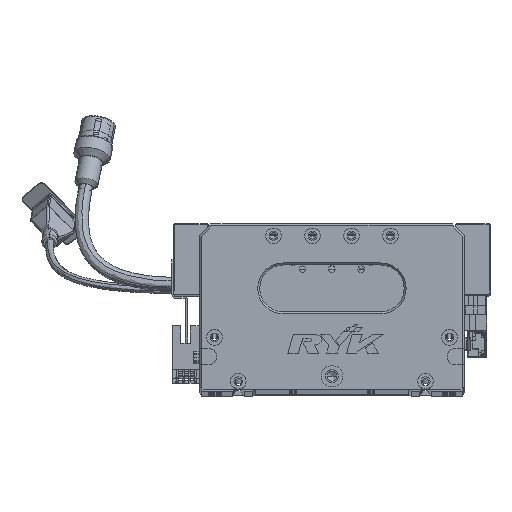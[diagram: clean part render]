
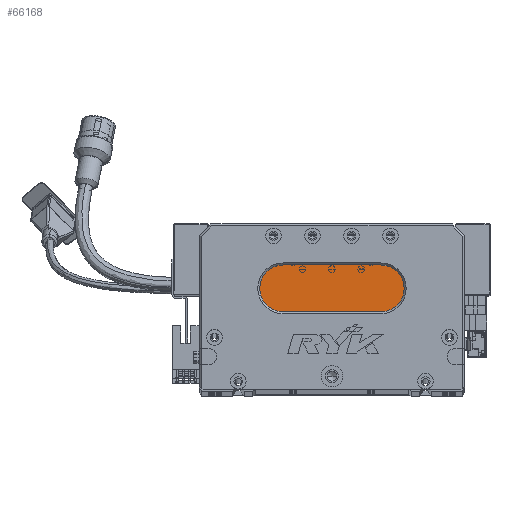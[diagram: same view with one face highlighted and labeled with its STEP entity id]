
A CAD part, top view. The second image highlights one B-rep face of the part: STEP entity #66168.
In plain terms, the highlighted planar face has unit normal (0, 0, 1) as drawn and (0, 0, -1) by its records, which use the part's own axes.
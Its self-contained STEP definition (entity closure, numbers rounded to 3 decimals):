
#391 = CARTESIAN_POINT ( 'NONE',  ( 93., 52., 13. ) ) ;
#715 = DIRECTION ( 'NONE',  ( -1., 0., 0. ) ) ;
#3499 = ORIENTED_EDGE ( 'NONE', *, *, #45184, .T. ) ;
#5304 = AXIS2_PLACEMENT_3D ( 'NONE', #391, #47567, #715 ) ;
#12016 = VERTEX_POINT ( 'NONE', #96600 ) ;
#15192 = CARTESIAN_POINT ( 'NONE',  ( 31., 52., 13. ) ) ;
#22307 = DIRECTION ( 'NONE',  ( -1., 0., 0. ) ) ;
#22929 = CIRCLE ( 'NONE', #57289, 12. ) ;
#23066 = DIRECTION ( 'NONE',  ( 1., 0., 0. ) ) ;
#24414 = VERTEX_POINT ( 'NONE', #72092 ) ;
#31712 = ORIENTED_EDGE ( 'NONE', *, *, #69929, .T. ) ;
#33215 = FACE_OUTER_BOUND ( 'NONE', #58527, .T. ) ;
#34445 = ORIENTED_EDGE ( 'NONE', *, *, #45962, .T. ) ;
#38374 = DIRECTION ( 'NONE',  ( 0., 0., -1. ) ) ;
#45013 = VERTEX_POINT ( 'NONE', #53197 ) ;
#45184 = EDGE_CURVE ( 'NONE', #75825, #12016, #22929, .T. ) ;
#45962 = EDGE_CURVE ( 'NONE', #12016, #45013, #82908, .T. ) ;
#46289 = DIRECTION ( 'NONE',  ( 0., 0., -1. ) ) ;
#46462 = AXIS2_PLACEMENT_3D ( 'NONE', #69519, #38374, #78079 ) ;
#47567 = DIRECTION ( 'NONE',  ( 0., 0., -1. ) ) ;
#53197 = CARTESIAN_POINT ( 'NONE',  ( 93., 64., 13. ) ) ;
#54849 = CIRCLE ( 'NONE', #46462, 12. ) ;
#55565 = DIRECTION ( 'NONE',  ( 0., 0., -1. ) ) ;
#56904 = DIRECTION ( 'NONE',  ( -1., 0., 0. ) ) ;
#57289 = AXIS2_PLACEMENT_3D ( 'NONE', #87422, #55565, #56904 ) ;
#58527 = EDGE_LOOP ( 'NONE', ( #69439, #72561, #31712, #3499, #34445 ) ) ;
#59582 = VECTOR ( 'NONE', #23066, 1000. ) ;
#60550 = CIRCLE ( 'NONE', #5304, 12. ) ;
#61739 = CARTESIAN_POINT ( 'NONE',  ( 93., 40., 13. ) ) ;
#66168 = ADVANCED_FACE ( 'NONE', ( #33215 ), #85692, .T. ) ;
#68894 = DIRECTION ( 'NONE',  ( -1., 0., 0. ) ) ;
#69439 = ORIENTED_EDGE ( 'NONE', *, *, #91989, .T. ) ;
#69519 = CARTESIAN_POINT ( 'NONE',  ( 43., 52., 13. ) ) ;
#69929 = EDGE_CURVE ( 'NONE', #24414, #75825, #54849, .T. ) ;
#72092 = CARTESIAN_POINT ( 'NONE',  ( 43., 40., 13. ) ) ;
#72444 = CARTESIAN_POINT ( 'NONE',  ( 93., 64., 13. ) ) ;
#72561 = ORIENTED_EDGE ( 'NONE', *, *, #83870, .T. ) ;
#74441 = VERTEX_POINT ( 'NONE', #61739 ) ;
#75825 = VERTEX_POINT ( 'NONE', #15192 ) ;
#78079 = DIRECTION ( 'NONE',  ( -1., 0., 0. ) ) ;
#82908 = LINE ( 'NONE', #72444, #59582 ) ;
#83870 = EDGE_CURVE ( 'NONE', #74441, #24414, #94728, .T. ) ;
#85692 = PLANE ( 'NONE',  #89581 ) ;
#87422 = CARTESIAN_POINT ( 'NONE',  ( 43., 52., 13. ) ) ;
#89581 = AXIS2_PLACEMENT_3D ( 'NONE', #93274, #46289, #22307 ) ;
#91989 = EDGE_CURVE ( 'NONE', #45013, #74441, #60550, .T. ) ;
#92276 = CARTESIAN_POINT ( 'NONE',  ( 93., 40., 13. ) ) ;
#93274 = CARTESIAN_POINT ( 'NONE',  ( 93., 52., 13. ) ) ;
#94728 = LINE ( 'NONE', #92276, #97196 ) ;
#96600 = CARTESIAN_POINT ( 'NONE',  ( 43., 64., 13. ) ) ;
#97196 = VECTOR ( 'NONE', #68894, 1000. ) ;
